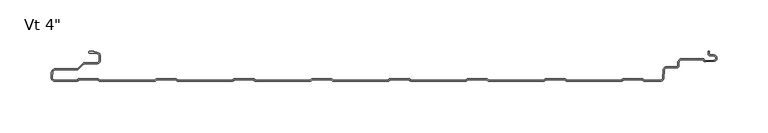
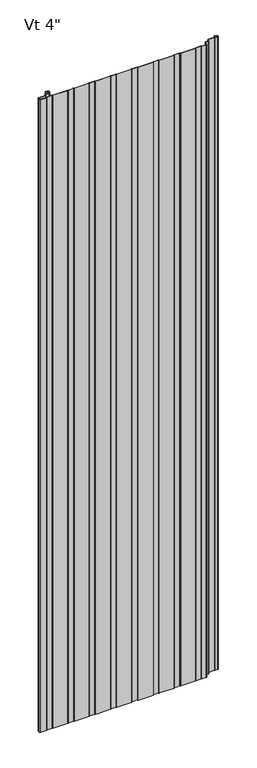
"""IFC4 building model written with IfcOpenShell, lengths in millimetres: plate geometry."""

from ifc_helpers import new_model, si_unit, point, frame_2d, origin, origin_with_axes, place, context, project, spatial, polyline, circle_curve, trimmed, segment, composite_curve, outline, extrude, source, transform, mapped, element, save


def plate_35a1a863(model_context):
    return source(origin(), model_context, "Body", "SweptSolid", [
        extrude(outline(composite_curve([segment(polyline([(-315.4415934, -101.5997378), (-337.2521176, -101.5997378)]), True, "CONTINUOUS"), segment(trimmed(circle_curve(frame_2d((-337.2521176, -98.0294985)), 3.5702393), [point((-337.2521176, -101.5997378))], [point((-340.808762, -97.7182281))], False, "CARTESIAN"), True, "CONTINUOUS"), segment(polyline([(-340.808762, -97.7182281), (-340.3690675, -92.6941815)]), True, "CONTINUOUS"), segment(trimmed(circle_curve(frame_2d((-336.7198392, -93.3049826)), 3.6999926), [point((-340.3690675, -92.6941815))], [point((-336.7198392, -89.60499))], False, "CARTESIAN"), True, "CONTINUOUS"), segment(polyline([(-336.7198392, -89.60499), (-315.5773997, -89.60499)]), True, "CONTINUOUS"), segment(trimmed(circle_curve(frame_2d((-315.5773997, -88.3049926)), 1.2999974), [point((-315.5773997, -89.60499))], [point((-314.6581627, -89.2242296))], True, "CARTESIAN"), True, "CONTINUOUS"), segment(polyline([(-314.6581627, -89.2242296), (-309.8297453, -84.3958121)]), True, "CONTINUOUS"), segment(trimmed(circle_curve(frame_2d((-307.9205608, -86.3049966)), 2.6999946), [point((-309.8297453, -84.3958121))], [point((-307.9205608, -83.605002))], False, "CARTESIAN"), True, "CONTINUOUS"), segment(polyline([(-307.9205608, -83.605002), (-296.1096717, -83.605002)]), True, "CONTINUOUS"), segment(trimmed(circle_curve(frame_2d((-296.1096717, -81.2550067)), 2.3499953), [point((-296.1096717, -83.605002))], [point((-293.7596764, -81.2550067))], True, "CARTESIAN"), True, "CONTINUOUS"), segment(polyline([(-293.7596764, -81.2550067), (-293.7596764, -76.8550155)]), True, "CONTINUOUS"), segment(trimmed(circle_curve(frame_2d((-296.1096717, -76.8550155)), 2.3499953), [point((-293.7596764, -76.8550155))], [point((-296.1096717, -74.5050202))], True, "CARTESIAN"), True, "CONTINUOUS"), segment(polyline([(-296.1096717, -74.5050202), (-302.6289779, -74.5050202)]), True, "CONTINUOUS"), segment(trimmed(circle_curve(frame_2d((-302.5686908, -73.306538)), 1.1999976), [point((-302.6289779, -74.5050202))], [point((-303.7683001, -73.2760161))], False, "CARTESIAN"), True, "CONTINUOUS"), segment(trimmed(circle_curve(frame_2d((-302.5686908, -73.306538)), 1.1999976), [point((-303.7683001, -73.2760161))], [point((-302.5671761, -72.1065413))], False, "CARTESIAN"), True, "CONTINUOUS"), segment(polyline([(-302.5671761, -72.1065413), (-298.8087827, -72.1065413), (-298.8087827, -73.5050202), (-296.1096717, -73.5050202)]), True, "CONTINUOUS"), segment(trimmed(circle_curve(frame_2d((-296.1096717, -76.8550155)), 3.3499953), [point((-296.1096717, -73.5050202))], [point((-292.7596764, -76.8550155))], False, "CARTESIAN"), True, "CONTINUOUS"), segment(polyline([(-292.7596764, -76.8550155), (-292.7596764, -81.2550067)]), True, "CONTINUOUS"), segment(trimmed(circle_curve(frame_2d((-296.1096717, -81.2550067)), 3.3499953), [point((-292.7596764, -81.2550067))], [point((-296.1096717, -84.605002))], False, "CARTESIAN"), True, "CONTINUOUS"), segment(polyline([(-296.1096717, -84.605002), (-307.9205608, -84.605002)]), True, "CONTINUOUS"), segment(trimmed(circle_curve(frame_2d((-307.9205608, -86.3049966)), 1.6999946), [point((-307.9205608, -84.605002))], [point((-309.1226385, -85.1029189))], True, "CARTESIAN"), True, "CONTINUOUS"), segment(polyline([(-309.1226385, -85.1029189), (-314.6247096, -90.60499), (-336.7198392, -90.60499)]), True, "CONTINUOUS"), segment(trimmed(circle_curve(frame_2d((-336.7198392, -93.3049826)), 2.6999926), [point((-336.7198392, -90.60499))], [point((-339.3765709, -92.823592))], True, "CARTESIAN"), True, "CONTINUOUS"), segment(polyline([(-339.3765709, -92.823592), (-339.8125699, -97.8054129)]), True, "CONTINUOUS"), segment(trimmed(circle_curve(frame_2d((-337.2521176, -98.0294985)), 2.5702393), [point((-339.8125699, -97.8054129))], [point((-337.2521176, -100.5997378))], True, "CARTESIAN"), True, "CONTINUOUS"), segment(polyline([(-337.2521176, -100.5997378), (-315.2790962, -100.5997378), (-314.0791277, -99.3997693), (-294.3597151, -99.3997693), (-293.1594844, -100.6), (-239.0793527, -100.6), (-237.879122, -99.3997693), (-218.1597095, -99.3997693), (-216.9594787, -100.6), (-162.879347, -100.6), (-161.6791163, -99.3997693), (-141.9597038, -99.3997693), (-140.7594731, -100.6), (-86.6793413, -100.6), (-85.4791106, -99.3997693), (-65.7596981, -99.3997693), (-64.5594674, -100.6), (-10.4793356, -100.6), (-9.2791049, -99.3997693), (10.4403076, -99.3997693), (11.6405383, -100.6), (65.7206701, -100.6), (66.9209008, -99.3997693), (86.6403133, -99.3997693), (87.840544, -100.6), (141.9206758, -100.6), (143.1209065, -99.3997693), (162.840319, -99.3997693), (164.0405497, -100.6), (218.1206815, -100.6), (219.3209122, -99.3997693), (239.0403247, -99.3997693), (240.2396538, -100.5990984), (256.3384359, -100.5990984)]), True, "CONTINUOUS"), segment(trimmed(circle_curve(frame_2d((256.3384359, -98.6491043)), 1.9499941), [point((256.3384359, -100.5990984))], [point((258.2810097, -98.8190575))], True, "CARTESIAN"), True, "CONTINUOUS"), segment(polyline([(258.2810097, -98.8190575), (259.0215397, -90.354761)]), True, "CONTINUOUS"), segment(trimmed(circle_curve(frame_2d((262.0400056, -90.6188426)), 3.0299959), [point((259.0215397, -90.354761))], [point((262.1657441, -87.5914567))], False, "CARTESIAN"), True, "CONTINUOUS"), segment(polyline([(262.1657441, -87.5914567), (272.2595941, -87.5914567)]), True, "CONTINUOUS"), segment(trimmed(circle_curve(frame_2d((272.2595941, -86.6423033)), 0.9491534), [point((272.2595941, -87.5914567))], [point((273.2087475, -86.6423033))], True, "CARTESIAN"), True, "CONTINUOUS"), segment(polyline([(273.2087475, -86.6423033), (273.2087475, -83.5009036)]), True, "CONTINUOUS"), segment(trimmed(circle_curve(frame_2d((277.2087415, -83.5009036)), 3.999994), [point((273.2087475, -83.5009036))], [point((277.2087415, -79.5009096))], False, "CARTESIAN"), True, "CONTINUOUS"), segment(polyline([(277.2087415, -79.5009096), (298.3895515, -79.5009096), (299.5334028, -81.4821181), (308.506811, -81.1268578)]), True, "CONTINUOUS"), segment(trimmed(circle_curve(frame_2d((308.4236622, -79.0266291)), 2.1018739), [point((308.506811, -81.1268578))], [point((308.5037148, -76.9262802))], True, "CARTESIAN"), True, "CONTINUOUS"), segment(polyline([(308.5037148, -76.9262802), (304.4977997, -76.6818653)]), True, "CONTINUOUS"), segment(trimmed(circle_curve(frame_2d((304.6099653, -74.8434917)), 1.8417922), [point((304.4977997, -76.6818653))], [point((302.7686884, -74.8870527))], False, "CARTESIAN"), True, "CONTINUOUS"), segment(polyline([(302.7686884, -74.8870527), (302.7686884, -72.1025061), (303.7686884, -72.1025061), (303.7686884, -74.8729389)]), True, "CONTINUOUS"), segment(trimmed(circle_curve(frame_2d((304.6099653, -74.8434917)), 0.8417922), [point((303.7686884, -74.8729389))], [point((304.5587, -75.6837214))], True, "CARTESIAN"), True, "CONTINUOUS"), segment(polyline([(304.5587, -75.6837214), (308.5543204, -75.9275082)]), True, "CONTINUOUS"), segment(trimmed(circle_curve(frame_2d((308.4236622, -79.0266291)), 3.1018739), [point((308.5543204, -75.9275082))], [point((308.5463704, -82.126075))], False, "CARTESIAN"), True, "CONTINUOUS"), segment(polyline([(308.5463704, -82.126075), (299.8344401, -82.4709833)]), True, "CONTINUOUS"), segment(trimmed(circle_curve(frame_2d((299.787224, -81.0217552)), 1.4499971), [point((299.8344401, -82.4709833))], [point((298.5314897, -81.7467537))], False, "CARTESIAN"), True, "CONTINUOUS"), segment(polyline([(298.5314897, -81.7467537), (297.8122013, -80.5009096), (277.2087415, -80.5009096)]), True, "CONTINUOUS"), segment(trimmed(circle_curve(frame_2d((277.2087415, -83.5009036)), 2.999994), [point((277.2087415, -80.5009096))], [point((274.2087475, -83.5009036))], True, "CARTESIAN"), True, "CONTINUOUS"), segment(polyline([(274.2087475, -83.5009036), (274.2087475, -86.6423033)]), True, "CONTINUOUS"), segment(trimmed(circle_curve(frame_2d((272.2595941, -86.6423033)), 1.9491534), [point((274.2087475, -86.6423033))], [point((272.2595941, -88.5914567))], False, "CARTESIAN"), True, "CONTINUOUS"), segment(polyline([(272.2595941, -88.5914567), (262.1429135, -88.5914567)]), True, "CONTINUOUS"), segment(trimmed(circle_curve(frame_2d((262.0400056, -90.6188426)), 2.0299959), [point((262.1429135, -88.5914567))], [point((260.0177344, -90.4419168))], True, "CARTESIAN"), True, "CONTINUOUS"), segment(polyline([(260.0177344, -90.4419168), (259.2772044, -98.9062132)]), True, "CONTINUOUS"), segment(trimmed(circle_curve(frame_2d((256.3384359, -98.6491043)), 2.9499941), [point((259.2772044, -98.9062132))], [point((256.3384359, -101.5990984))], False, "CARTESIAN"), True, "CONTINUOUS"), segment(polyline([(256.3384359, -101.5990984), (240.4528361, -101.5990984)]), True, "CONTINUOUS"), segment(trimmed(circle_curve(frame_2d((240.4020209, -100.2000237)), 1.3999972), [point((240.4528361, -101.5990984))], [point((239.3579701, -101.1327349))], False, "CARTESIAN"), True, "CONTINUOUS"), segment(polyline([(239.3579701, -101.1327349), (238.6250045, -100.3997693), (219.7343353, -100.3997693), (219.0013906, -101.132714)]), True, "CONTINUOUS"), segment(trimmed(circle_curve(frame_2d((217.9573398, -100.2000028)), 1.3999972), [point((219.0013906, -101.132714))], [point((217.9573398, -101.6))], False, "CARTESIAN"), True, "CONTINUOUS"), segment(polyline([(217.9573398, -101.6), (164.2098266, -101.6)]), True, "CONTINUOUS"), segment(trimmed(circle_curve(frame_2d((164.2021733, -100.2000237)), 1.3999972), [point((164.2098266, -101.6))], [point((163.1581225, -101.1327349))], False, "CARTESIAN"), True, "CONTINUOUS"), segment(polyline([(163.1581225, -101.1327349), (162.4251569, -100.3997693), (143.5344877, -100.3997693), (142.801543, -101.132714)]), True, "CONTINUOUS"), segment(trimmed(circle_curve(frame_2d((141.7574922, -100.2000028)), 1.3999972), [point((142.801543, -101.132714))], [point((141.7574922, -101.6))], False, "CARTESIAN"), True, "CONTINUOUS"), segment(polyline([(141.7574922, -101.6), (88.009979, -101.6)]), True, "CONTINUOUS"), segment(trimmed(circle_curve(frame_2d((88.0023257, -100.2000237)), 1.3999972), [point((88.009979, -101.6))], [point((86.9582749, -101.1327349))], False, "CARTESIAN"), True, "CONTINUOUS"), segment(polyline([(86.9582749, -101.1327349), (86.2253093, -100.3997693), (67.3346401, -100.3997693), (66.6016954, -101.132714)]), True, "CONTINUOUS"), segment(trimmed(circle_curve(frame_2d((65.5576446, -100.2000028)), 1.3999972), [point((66.6016954, -101.132714))], [point((65.5576446, -101.6))], False, "CARTESIAN"), True, "CONTINUOUS"), segment(polyline([(65.5576446, -101.6), (11.8101314, -101.6)]), True, "CONTINUOUS"), segment(trimmed(circle_curve(frame_2d((11.8024781, -100.2000237)), 1.3999972), [point((11.8101314, -101.6))], [point((10.7584273, -101.1327349))], False, "CARTESIAN"), True, "CONTINUOUS"), segment(polyline([(10.7584273, -101.1327349), (10.0254617, -100.3997693), (-8.8652075, -100.3997693), (-9.5981522, -101.132714)]), True, "CONTINUOUS"), segment(trimmed(circle_curve(frame_2d((-10.642203, -100.2000028)), 1.3999972), [point((-9.5981522, -101.132714))], [point((-10.642203, -101.6))], False, "CARTESIAN"), True, "CONTINUOUS"), segment(polyline([(-10.642203, -101.6), (-64.3897162, -101.6)]), True, "CONTINUOUS"), segment(trimmed(circle_curve(frame_2d((-64.3973695, -100.2000237)), 1.3999972), [point((-64.3897162, -101.6))], [point((-65.4414203, -101.1327349))], False, "CARTESIAN"), True, "CONTINUOUS"), segment(polyline([(-65.4414203, -101.1327349), (-66.1743859, -100.3997693), (-85.0650551, -100.3997693), (-85.7979998, -101.132714)]), True, "CONTINUOUS"), segment(trimmed(circle_curve(frame_2d((-86.8420506, -100.2000028)), 1.3999972), [point((-85.7979998, -101.132714))], [point((-86.8420506, -101.6))], False, "CARTESIAN"), True, "CONTINUOUS"), segment(polyline([(-86.8420506, -101.6), (-140.5895638, -101.6)]), True, "CONTINUOUS"), segment(trimmed(circle_curve(frame_2d((-140.5972171, -100.2000237)), 1.3999972), [point((-140.5895638, -101.6))], [point((-141.6412679, -101.1327349))], False, "CARTESIAN"), True, "CONTINUOUS"), segment(polyline([(-141.6412679, -101.1327349), (-142.3742335, -100.3997693), (-161.2649027, -100.3997693), (-161.9978474, -101.132714)]), True, "CONTINUOUS"), segment(trimmed(circle_curve(frame_2d((-163.0418982, -100.2000028)), 1.3999972), [point((-161.9978474, -101.132714))], [point((-163.0418982, -101.6))], False, "CARTESIAN"), True, "CONTINUOUS"), segment(polyline([(-163.0418982, -101.6), (-216.7894114, -101.6)]), True, "CONTINUOUS"), segment(trimmed(circle_curve(frame_2d((-216.7970647, -100.2000237)), 1.3999972), [point((-216.7894114, -101.6))], [point((-217.8411155, -101.1327349))], False, "CARTESIAN"), True, "CONTINUOUS"), segment(polyline([(-217.8411155, -101.1327349), (-218.5740811, -100.3997693), (-237.4647503, -100.3997693), (-238.197695, -101.132714)]), True, "CONTINUOUS"), segment(trimmed(circle_curve(frame_2d((-239.2417458, -100.2000028)), 1.3999972), [point((-238.197695, -101.132714))], [point((-239.2417458, -101.6))], False, "CARTESIAN"), True, "CONTINUOUS"), segment(polyline([(-239.2417458, -101.6), (-292.989259, -101.6)]), True, "CONTINUOUS"), segment(trimmed(circle_curve(frame_2d((-292.9969123, -100.2000237)), 1.3999972), [point((-292.989259, -101.6))], [point((-294.0409631, -101.1327349))], False, "CARTESIAN"), True, "CONTINUOUS"), segment(polyline([(-294.0409631, -101.1327349), (-294.7739287, -100.3997693), (-313.6649141, -100.3997693), (-314.3976403, -101.1324955)]), True, "CONTINUOUS"), segment(trimmed(circle_curve(frame_2d((-315.4415934, -100.1998717)), 1.3998661), [point((-314.3976403, -101.1324955))], [point((-315.4415934, -101.5997378))], False, "CARTESIAN"), True, "CONTINUOUS")], self_intersect=False)), origin_with_axes(), (0.0, 0.0, 1.0), 2400.0),
    ])


if __name__ == "__main__":
    model = new_model("IFC4")
    model_context = context("Model", 3, world=origin())
    ifc_project = project(units=[si_unit("LENGTHUNIT", "METRE", prefix="MILLI")], contexts=[model_context])
    site = spatial("IfcSite", under=ifc_project)
    building = spatial("IfcBuilding", under=site)
    placement = place(None, origin())
    plate_shape = plate_35a1a863(model_context)
    element("IfcPlate", 1, ObjectType="KIP-24-Karrier-KP-R19-CP-Vt-SL3-8in_SL : Vt 4\"", at=placement, inside=building, context=model_context, shape_type="MappedRepresentation", body=[
        mapped(plate_shape, transform((0.0, 0.0, 0.0), x_axis=(1.0, 0.0, 0.0), y_axis=(0.0, 1.0, 0.0), z_axis=(0.0, 0.0, 1.0))),
    ])
    save(model, "model.ifc")
